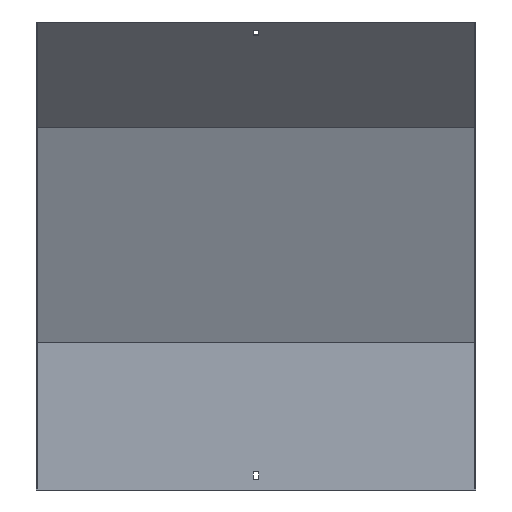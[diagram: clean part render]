
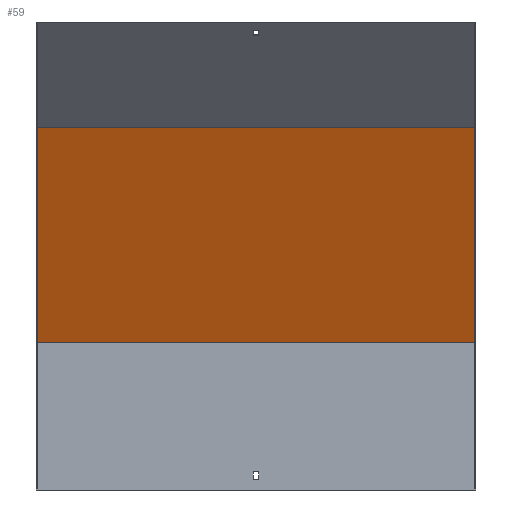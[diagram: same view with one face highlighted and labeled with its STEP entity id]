
A CAD part, front view. The second image highlights one B-rep face of the part: STEP entity #59.
In plain terms, the highlighted planar face has unit normal (0, -0.924, -0.383).
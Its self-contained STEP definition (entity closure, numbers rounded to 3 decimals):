
#37 = EDGE_CURVE ( 'NONE', #166, #218, #134, .T. ) ;
#42 = LINE ( 'NONE', #249, #840 ) ;
#50 = ORIENTED_EDGE ( 'NONE', *, *, #524, .F. ) ;
#59 = ADVANCED_FACE ( 'NONE', ( #288 ), #203, .T. ) ;
#78 = CARTESIAN_POINT ( 'NONE',  ( 251.5, 18.5, 168.68 ) ) ;
#85 = EDGE_CURVE ( 'NONE', #166, #282, #539, .T. ) ;
#103 = VECTOR ( 'NONE', #732, 1000. ) ;
#134 = LINE ( 'NONE', #351, #172 ) ;
#147 = DIRECTION ( 'NONE',  ( 0., 0.383, -0.924 ) ) ;
#166 = VERTEX_POINT ( 'NONE', #646 ) ;
#172 = VECTOR ( 'NONE', #208, 1000. ) ;
#203 = PLANE ( 'NONE',  #297 ) ;
#208 = DIRECTION ( 'NONE',  ( 0., -0.383, 0.924 ) ) ;
#218 = VERTEX_POINT ( 'NONE', #834 ) ;
#230 = EDGE_LOOP ( 'NONE', ( #50, #791, #573, #425 ) ) ;
#244 = LINE ( 'NONE', #783, #271 ) ;
#249 = CARTESIAN_POINT ( 'NONE',  ( 251.5, -83.431, 414.764 ) ) ;
#271 = VECTOR ( 'NONE', #832, 1000. ) ;
#282 = VERTEX_POINT ( 'NONE', #390 ) ;
#288 = FACE_OUTER_BOUND ( 'NONE', #230, .T. ) ;
#297 = AXIS2_PLACEMENT_3D ( 'NONE', #482, #807, #147 ) ;
#351 = CARTESIAN_POINT ( 'NONE',  ( 250., 75.428, 31.243 ) ) ;
#390 = CARTESIAN_POINT ( 'NONE',  ( -250., 18.5, 168.68 ) ) ;
#420 = CARTESIAN_POINT ( 'NONE',  ( -250., -83.431, 414.764 ) ) ;
#425 = ORIENTED_EDGE ( 'NONE', *, *, #531, .T. ) ;
#482 = CARTESIAN_POINT ( 'NONE',  ( 251.5, 17.092, 172.08 ) ) ;
#524 = EDGE_CURVE ( 'NONE', #282, #714, #244, .T. ) ;
#531 = EDGE_CURVE ( 'NONE', #218, #714, #42, .T. ) ;
#539 = LINE ( 'NONE', #78, #103 ) ;
#573 = ORIENTED_EDGE ( 'NONE', *, *, #37, .T. ) ;
#578 = DIRECTION ( 'NONE',  ( -1., 0., 0. ) ) ;
#646 = CARTESIAN_POINT ( 'NONE',  ( 250., 18.5, 168.68 ) ) ;
#714 = VERTEX_POINT ( 'NONE', #420 ) ;
#732 = DIRECTION ( 'NONE',  ( -1., 0., 0. ) ) ;
#783 = CARTESIAN_POINT ( 'NONE',  ( -250., 75.428, 31.243 ) ) ;
#791 = ORIENTED_EDGE ( 'NONE', *, *, #85, .F. ) ;
#807 = DIRECTION ( 'NONE',  ( 0., -0.924, -0.383 ) ) ;
#832 = DIRECTION ( 'NONE',  ( 0., -0.383, 0.924 ) ) ;
#834 = CARTESIAN_POINT ( 'NONE',  ( 250., -83.431, 414.764 ) ) ;
#840 = VECTOR ( 'NONE', #578, 1000. ) ;
